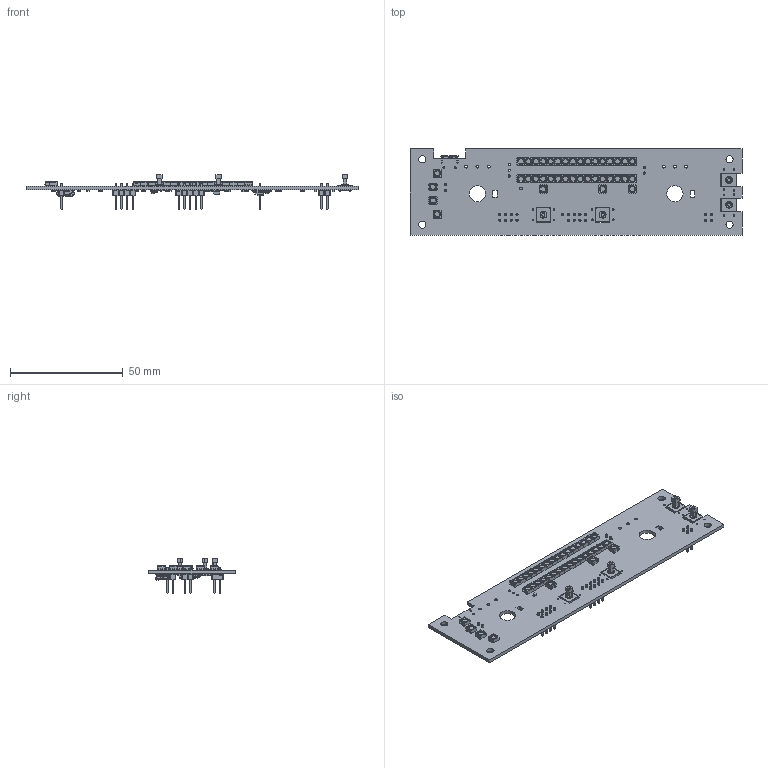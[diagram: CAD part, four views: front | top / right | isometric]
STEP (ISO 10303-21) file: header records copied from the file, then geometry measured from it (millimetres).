
FILE_DESCRIPTION(('KiCad electronic assembly'),'2;1');
FILE_NAME('Streamer_Reflex_Front_RDC2-0060.step','2024-05-14T12:25:06',( 'Pcbnew'),('Kicad'),'Open CASCADE STEP processor 7.7', 'KiCad to STEP converter','Unknown');
FILE_SCHEMA(('AUTOMOTIVE_DESIGN { 1 0 10303 214 1 1 1 1 }'));
Length unit declared in the file: millimetre
Products named in the file (34): Streamer_Reflex_Front_RDC2-0060 1; LED_WS2812B-Mini_PLCC4_3.5x3.5mm; LED_WS2812B-Mini_PLCC4_3.5x3.5mm_P1.8mm; LED_0603_1608Metric; SOT-23-5; SOT_23_5; R_0603_1608Metric; C_0603_1608Metric; SW_SPST_Omron_B3FS-105xP; SOIC-8_3.9x4.9mm_P1.27mm; SOIC_8_39x49mm_P127mm; PinHeader_2x04_P2.54mm_Vertical; PinHeader_2x04_P254mm_Vertical; PinHeader_1x01_P2.54mm_Vertical; PinHeader_1x01_P254mm_Vertical; PinHeader_1x02_P2.54mm_Vertical; PinHeader_1x02_P254mm_Vertical; CP_EIA-3216-18_Kemet-A; CP_EIA_3216_18_Kemet_A; PinHeader_2x02_P2.54mm_Vertical; PinHeader_2x02_P254mm_Vertical; USB_Micro-B_Molex_47346-0001; TSOT-23-6; TSOT_23_6; LQFP-48_7x7mm_P0.5mm; LQFP_48_7x7mm_P05mm; Streamer_Reflex_Front_RDC2-0060_PCB
Assembly tree (129 placements, depth 3):
  Streamer_Reflex_Front_RDC2-0060 1
    LED_WS2812B-Mini_PLCC4_3.5x3.5mm  x39
      LED_WS2812B-Mini_PLCC4_3.5x3.5mm_P1.8mm
    LED_0603_1608Metric
      LED_0603_1608Metric
    LED_WS2812B-Mini_PLCC4_3.5x3.5mm
      LED_WS2812B-Mini_PLCC4_3.5x3.5mm_P1.8mm
    SOT-23-5  x2
      SOT_23_5
    R_0603_1608Metric  x22
      R_0603_1608Metric
    C_0603_1608Metric  x32
      C_0603_1608Metric
    SW_SPST_Omron_B3FS-105xP  x4
      SW_SPST_Omron_B3FS-105xP
    SOIC-8_3.9x4.9mm_P1.27mm
      SOIC_8_39x49mm_P127mm
    PinHeader_2x04_P2.54mm_Vertical  x2
      PinHeader_2x04_P254mm_Vertical
    PinHeader_1x01_P2.54mm_Vertical
      PinHeader_1x01_P254mm_Vertical
    PinHeader_1x02_P2.54mm_Vertical  x2
      PinHeader_1x02_P254mm_Vertical
    CP_EIA-3216-18_Kemet-A
      CP_EIA_3216_18_Kemet_A
    PinHeader_2x02_P2.54mm_Vertical
      PinHeader_2x02_P254mm_Vertical
    USB_Micro-B_Molex_47346-0001
      USB_Micro-B_Molex_47346-0001
    TSOT-23-6
      TSOT_23_6
    LQFP-48_7x7mm_P0.5mm
      LQFP_48_7x7mm_P05mm
    Streamer_Reflex_Front_RDC2-0060_PCB
Bounding box: 147.51 x 38.4 x 15.39 mm (x, y, z)
Volume: 10270.2 mm3; surface area: 16691.2 mm2
Topology: 113 solids, 113 shells, 6214 faces, 17069 edges, 11244 vertices
Faces by surface type: plane 4302, cylinder 1612, bspline 257, cone 39, sphere 4
Full cylindrical faces by diameter (mm): 0.5 x1, 0.6 x1, 0.7 x16, 0.85 x2, 1 x28, 1.3 x6, 2.307 x39, 3.2 x4, 7.2 x2
Entity records: 95883 total; most frequent: CARTESIAN_POINT 18638, ORIENTED_EDGE 12948, DIRECTION 11796, EDGE_CURVE 6474, LINE 5072, VECTOR 5072, VERTEX_POINT 4134, AXIS2_PLACEMENT_3D 3362
